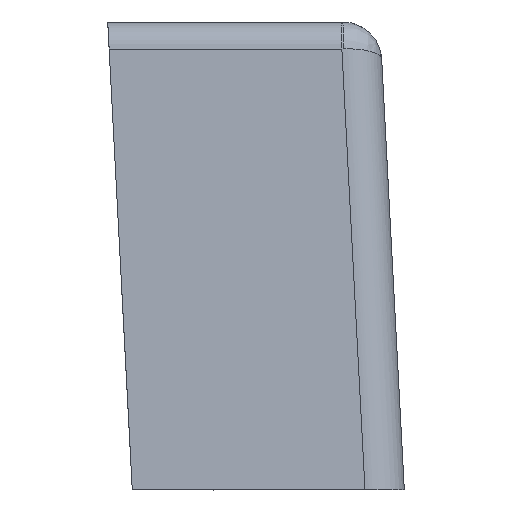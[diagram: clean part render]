
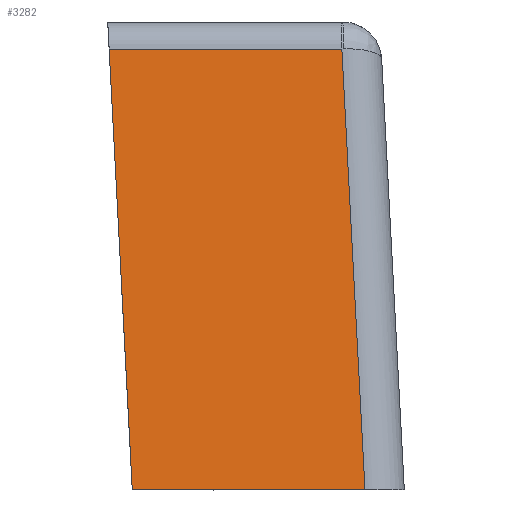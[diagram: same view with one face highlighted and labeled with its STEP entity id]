
A CAD part, front view. The second image highlights one B-rep face of the part: STEP entity #3282.
In plain terms, the highlighted planar face has unit normal (0, -0.996, 0.087).
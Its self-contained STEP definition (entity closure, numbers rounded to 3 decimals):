
#163=CARTESIAN_POINT('Vertex',(139.8,-20.,0.)) ;
#167=CARTESIAN_POINT('Control Point',(139.331,-19.217,8.948)) ;
#168=CARTESIAN_POINT('Control Point',(139.8,-20.,0.)) ;
#169=CARTESIAN_POINT('Vertex',(139.331,-19.217,8.948)) ;
#2808=CARTESIAN_POINT('Vertex',(144.053,-19.217,8.948)) ;
#2855=CARTESIAN_POINT('Line Origine',(142.5,-19.217,8.948)) ;
#3259=CARTESIAN_POINT('Axis2P3D Location',(139.6,-20.,0.)) ;
#3264=CARTESIAN_POINT('Line Origine',(144.287,-19.609,4.474)) ;
#3268=CARTESIAN_POINT('Vertex',(144.522,-20.,0.)) ;
#3271=CARTESIAN_POINT('Line Origine',(142.161,-20.,0.)) ;
#2856=DIRECTION('Vector Direction',(1.,0.,0.)) ;
#3260=DIRECTION('Axis2P3D Direction',(0.,0.996,-0.087)) ;
#3261=DIRECTION('Axis2P3D XDirection',(0.,0.087,0.996)) ;
#3265=DIRECTION('Vector Direction',(-0.052,0.087,0.995)) ;
#3272=DIRECTION('Vector Direction',(1.,0.,0.)) ;
#3262=AXIS2_PLACEMENT_3D('Plane Axis2P3D',#3259,#3260,#3261) ;
#3277=ORIENTED_EDGE('',*,*,#3270,.F.) ;
#3278=ORIENTED_EDGE('',*,*,#2859,.F.) ;
#3279=ORIENTED_EDGE('',*,*,#171,.T.) ;
#3280=ORIENTED_EDGE('',*,*,#3275,.T.) ;
#2857=VECTOR('Line Direction',#2856,1.) ;
#3266=VECTOR('Line Direction',#3265,1.) ;
#3273=VECTOR('Line Direction',#3272,1.) ;
#3282=ADVANCED_FACE('Endcap-A',(#3281),#3263,.F.) ;
#166=B_SPLINE_CURVE_WITH_KNOTS('',1,(#167,#168),.UNSPECIFIED.,.F.,.U.,(2,2),(-3.206,5.788),.UNSPECIFIED.) ;
#171=EDGE_CURVE('',#170,#164,#166,.T.) ;
#2859=EDGE_CURVE('',#170,#2809,#2858,.T.) ;
#3270=EDGE_CURVE('',#2809,#3269,#3267,.F.) ;
#3275=EDGE_CURVE('',#164,#3269,#3274,.T.) ;
#3276=EDGE_LOOP('',(#3277,#3278,#3279,#3280)) ;
#3281=FACE_OUTER_BOUND('',#3276,.T.) ;
#2858=LINE('Line',#2855,#2857) ;
#3267=LINE('Line',#3264,#3266) ;
#3274=LINE('Line',#3271,#3273) ;
#3263=PLANE('',#3262) ;
#164=VERTEX_POINT('',#163) ;
#170=VERTEX_POINT('',#169) ;
#2809=VERTEX_POINT('',#2808) ;
#3269=VERTEX_POINT('',#3268) ;
